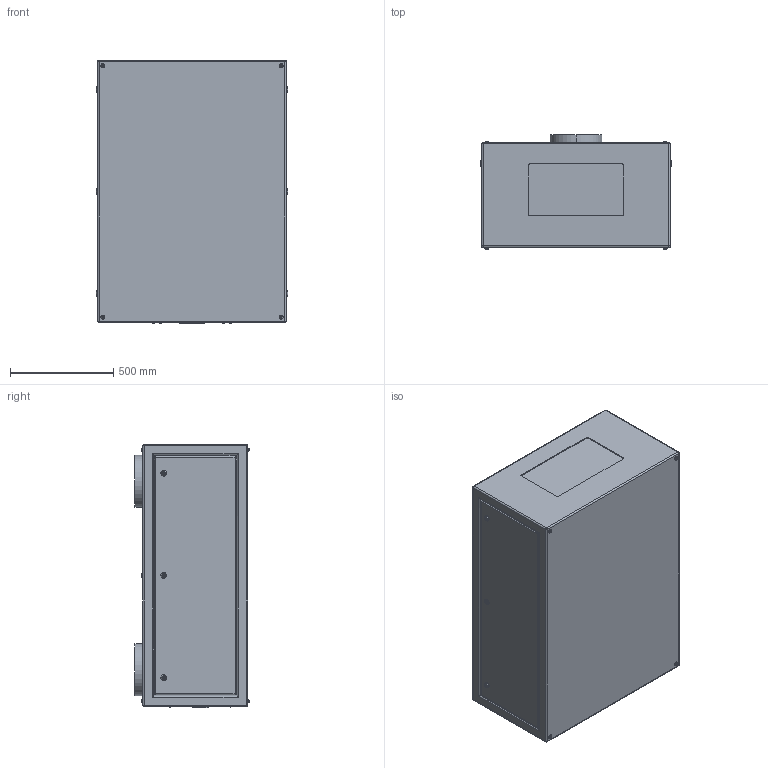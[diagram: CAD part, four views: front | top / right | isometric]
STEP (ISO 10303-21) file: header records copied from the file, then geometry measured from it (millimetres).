
FILE_DESCRIPTION (( 'STEP AP214' ), '1' );
FILE_NAME ('Tacit 56.250.L R08.STEP', '2022-09-11T22:35:15', ( '' ), ( '' ), 'SwSTEP 2.0', 'SolidWorks 2020', '' );
FILE_SCHEMA (( 'AUTOMOTIVE_DESIGN' ));
Length unit declared in the file: inch
Products named in the file (1): Tacit 56.250.L R08
Bounding box: 927.1 x 553.36 x 1275.08 mm (x, y, z)
Volume: 588723707.9 mm3; surface area: 4869197.3 mm2
Topology: 1 solids, 7 shells, 401 faces, 892 edges, 560 vertices
Faces by surface type: plane 177, cylinder 168, torus 48, sphere 8
Entity records: 15011 total; most frequent: CARTESIAN_POINT 2382, DIRECTION 1972, ORIENTED_EDGE 1768, EDGE_CURVE 884, AXIS2_PLACEMENT_3D 782, VERTEX_POINT 560, EDGE_LOOP 464, VECTOR 408
